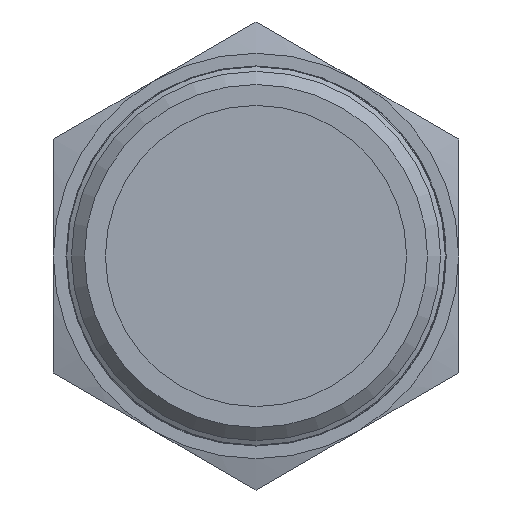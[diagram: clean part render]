
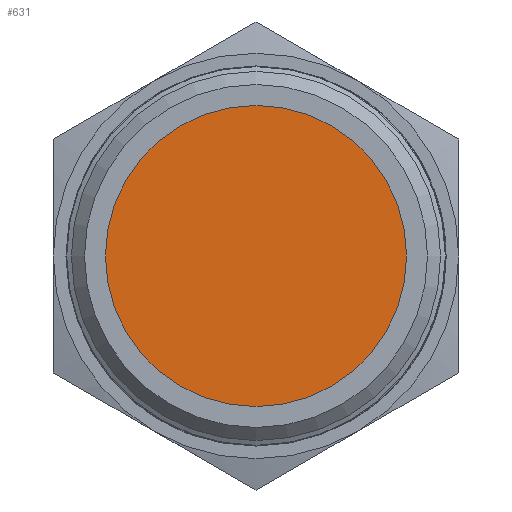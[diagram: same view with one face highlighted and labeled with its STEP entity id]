
A CAD part, left-side view. The second image highlights one B-rep face of the part: STEP entity #631.
In plain terms, the highlighted planar face has unit normal (-1, 0, 0).
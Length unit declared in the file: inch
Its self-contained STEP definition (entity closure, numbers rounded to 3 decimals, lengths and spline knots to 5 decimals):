
#631 = ADVANCED_FACE( '', ( #1450 ), #1451, .T. );
#1450 = FACE_OUTER_BOUND( '', #3187, .T. );
#1451 = PLANE( '', #3188 );
#3187 = EDGE_LOOP( '', ( #5419 ) );
#3188 = AXIS2_PLACEMENT_3D( '', #5420, #5421, #5422 );
#5419 = ORIENTED_EDGE( '', *, *, #7163, .T. );
#5420 = CARTESIAN_POINT( '', ( 0.25, 0., 0.65 ) );
#5421 = DIRECTION( '', ( -1., 0., 0. ) );
#5422 = DIRECTION( '', ( 0., 0., 1. ) );
#7163 = EDGE_CURVE( '', #8507, #8507, #8508, .T. );
#8507 = VERTEX_POINT( '', #11409 );
#8508 = CIRCLE( '', #11410, 0.65 );
#11409 = CARTESIAN_POINT( '', ( 0.25, 0., 0.65 ) );
#11410 = AXIS2_PLACEMENT_3D( '', #12179, #12180, #12181 );
#12179 = CARTESIAN_POINT( '', ( 0.25, 0., 0. ) );
#12180 = DIRECTION( '', ( -1., 0., 0. ) );
#12181 = DIRECTION( '', ( 0., 0., 1. ) );
